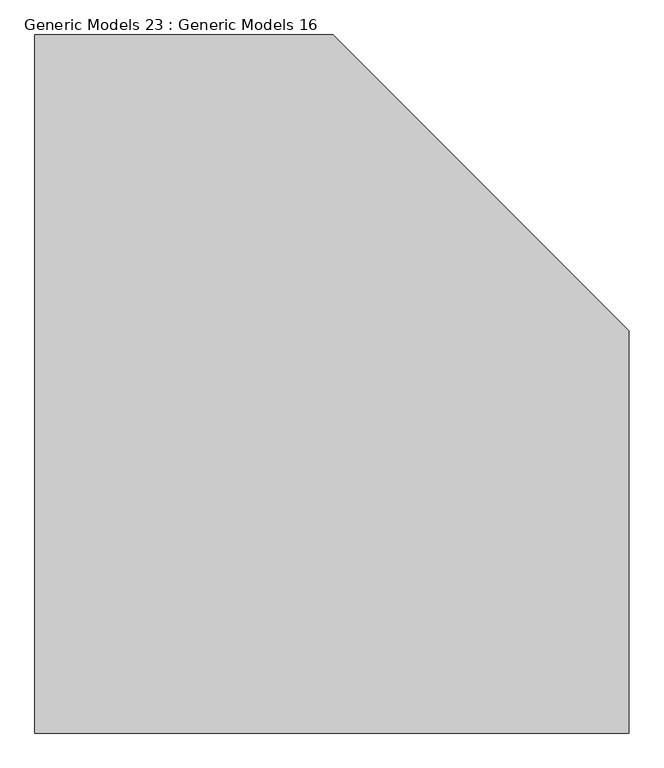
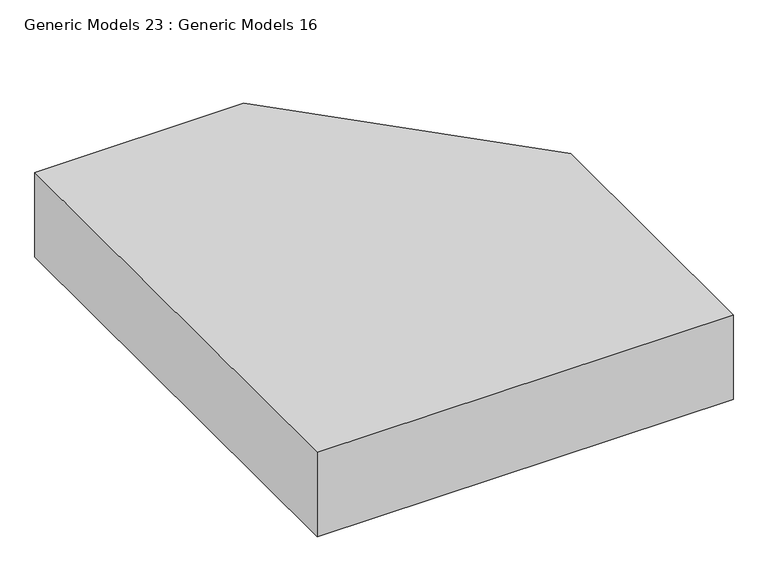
"""IFC4 building model written with IfcOpenShell, lengths in millimetres: proxy geometry, Generic Models 23 : Generic Models 16."""

from ifc_helpers import new_model, si_unit, frame, origin, place, context, project, spatial, polyline, outline, extrude, source, transform, mapped, element, save


def generic_models_23_generic_models_16_b66dae09(model_context):
    return source(origin(), model_context, "Body", "SweptSolid", [
        extrude(outline(polyline([(8013.7, 2082.8), (8817.2553898, 2082.8), (9613.9, 1286.1553898), (9613.9, 203.2), (8013.7, 203.2), (8013.7, 2082.8)])), frame((0.0, 0.0, 5956.3), z_axis=(0.0, 0.0, 1.0), x_axis=(1.0, 0.0, 0.0)), (0.0, 0.0, 1.0), 342.9),
    ])


if __name__ == "__main__":
    model = new_model("IFC4")
    model_context = context("Model", 3, world=origin())
    ifc_project = project(units=[si_unit("LENGTHUNIT", "METRE", prefix="MILLI")], contexts=[model_context])
    site = spatial("IfcSite", under=ifc_project)
    building = spatial("IfcBuilding", under=site)
    placement = place(None, origin())
    generic_models_23_generic_models_16_shape = generic_models_23_generic_models_16_b66dae09(model_context)
    element("IfcBuildingElementProxy", 1, Name="Generic Models 23 : Generic Models 16", ObjectType="Generic Models 23 : Generic Models 16", at=placement, inside=building, context=model_context, shape_type="MappedRepresentation", body=[
        mapped(generic_models_23_generic_models_16_shape, transform((0.0, 0.0, 0.0), x_axis=(1.0, 0.0, 0.0), y_axis=(0.0, 1.0, 0.0), z_axis=(0.0, 0.0, 1.0))),
    ])
    save(model, "model.ifc")
